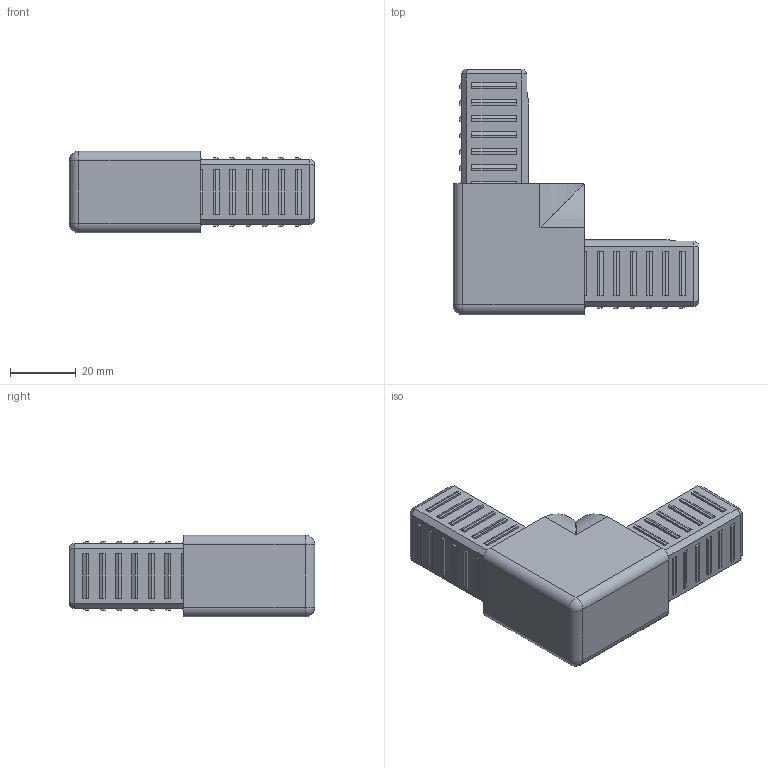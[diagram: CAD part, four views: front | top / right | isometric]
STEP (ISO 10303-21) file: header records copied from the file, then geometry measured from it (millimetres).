
FILE_DESCRIPTION (( 'STEP AP203' ), '1' );
FILE_NAME ('013.025.101.STEP', '2020-09-18T14:42:45', ( '' ), ( '' ), 'SwSTEP 2.0', 'SolidWorks 2018', '' );
FILE_SCHEMA (( 'CONFIG_CONTROL_DESIGN' ));
Length unit declared in the file: millimetre
Products named in the file (1): 013.025.101
Bounding box: 75 x 75 x 25 mm (x, y, z)
Volume: 39487.4 mm3; surface area: 26685.8 mm2
Topology: 1 solids, 1 shells, 353 faces, 929 edges, 604 vertices
Faces by surface type: plane 299, cylinder 35, cone 8, bspline 6, torus 3, sphere 2
Entity records: 11124 total; most frequent: CARTESIAN_POINT 2345, ORIENTED_EDGE 1850, DIRECTION 1677, EDGE_CURVE 925, VECTOR 799, LINE 799, VERTEX_POINT 604, AXIS2_PLACEMENT_3D 439
